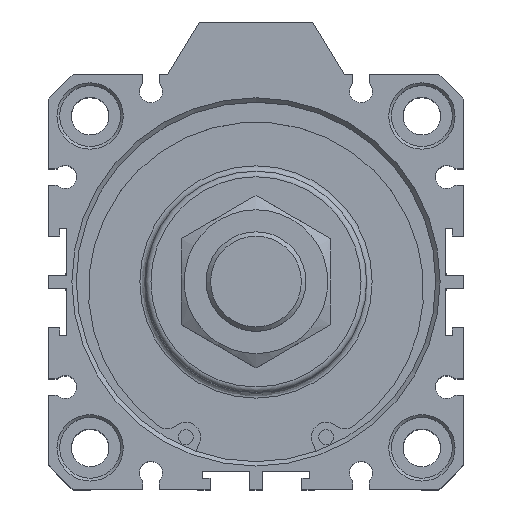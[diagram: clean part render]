
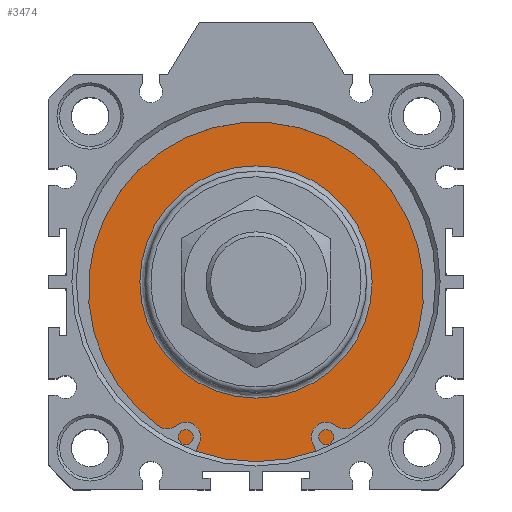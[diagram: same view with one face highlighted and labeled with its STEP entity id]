
A CAD part, top view. The second image highlights one B-rep face of the part: STEP entity #3474.
In plain terms, the highlighted planar face has unit normal (0, 0, 1).
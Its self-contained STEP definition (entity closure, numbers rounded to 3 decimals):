
#3423=CARTESIAN_POINT('',(2.99,22.555,67.3));
#3424=VERTEX_POINT('',#3423);
#3425=CARTESIAN_POINT('',(2.99,1.555,67.3));
#3426=DIRECTION('',(0.0,0.0,1.0));
#3427=DIRECTION('',(0.0,-1.0,0.0));
#3428=AXIS2_PLACEMENT_3D('',#3425,#3426,#3427);
#3429=CIRCLE('',#3428,21.);
#3430=EDGE_CURVE('',#3424,#3424,#3429,.T.);
#3455=CARTESIAN_POINT('',(2.99,27.805,67.3));
#3456=DIRECTION('',(0.0,0.0,1.0));
#3457=DIRECTION('',(1.0,0.0,0.0));
#3458=AXIS2_PLACEMENT_3D('',#3455,#3456,#3457);
#3459=PLANE('',#3458);
#3460=CARTESIAN_POINT('',(2.99,34.055,67.3));
#3461=VERTEX_POINT('',#3460);
#3462=CARTESIAN_POINT('',(2.99,1.555,67.3));
#3463=DIRECTION('',(0.0,0.0,-1.0));
#3464=DIRECTION('',(0.0,1.0,0.0));
#3465=AXIS2_PLACEMENT_3D('',#3462,#3463,#3464);
#3466=CIRCLE('',#3465,32.5);
#3467=EDGE_CURVE('',#3461,#3461,#3466,.T.);
#3468=ORIENTED_EDGE('',*,*,#3467,.F.);
#3469=EDGE_LOOP('',(#3468));
#3470=FACE_OUTER_BOUND('',#3469,.T.);
#3471=ORIENTED_EDGE('',*,*,#3430,.F.);
#3472=EDGE_LOOP('',(#3471));
#3473=FACE_BOUND('',#3472,.T.);
#3474=ADVANCED_FACE('',(#3470,#3473),#3459,.T.);
